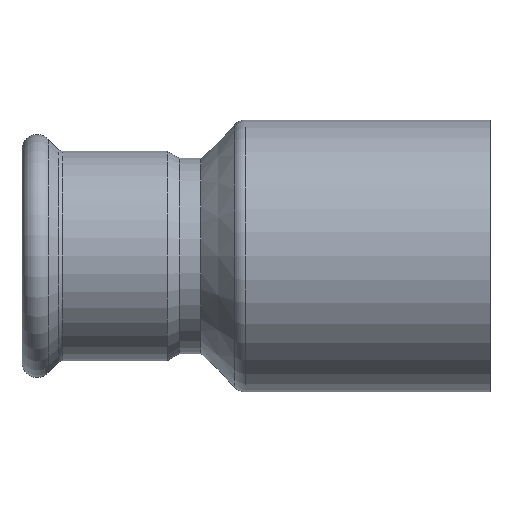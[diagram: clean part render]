
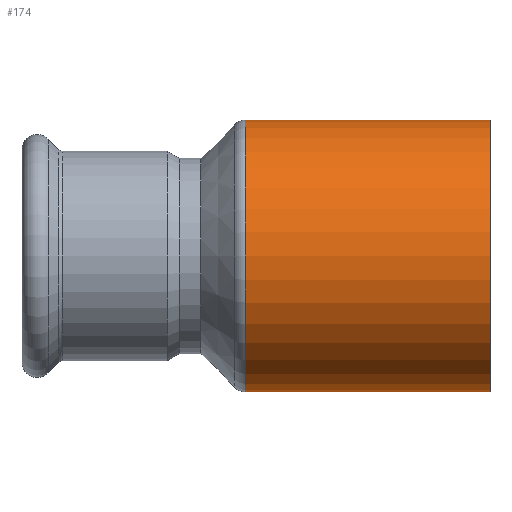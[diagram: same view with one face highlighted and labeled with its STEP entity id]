
A CAD part, front view. The second image highlights one B-rep face of the part: STEP entity #174.
In plain terms, the highlighted cylindrical face has radius 44.45 mm (diameter 88.9 mm), a full revolution.
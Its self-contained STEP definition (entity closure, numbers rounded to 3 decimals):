
#123=CARTESIAN_POINT('',(-79.979,44.45,0.));
#124=VERTEX_POINT('',#123);
#125=CARTESIAN_POINT('',(-79.979,0.0,0.0));
#126=DIRECTION('',(-1.0,0.0,0.0));
#127=DIRECTION('',(0.0,-1.0,0.0));
#128=AXIS2_PLACEMENT_3D('',#125,#126,#127);
#129=CIRCLE('',#128,44.45);
#130=EDGE_CURVE('',#124,#124,#129,.T.);
#155=CARTESIAN_POINT('',(-41.025,0.0,0.0));
#156=DIRECTION('',(1.0,0.0,0.0));
#157=DIRECTION('',(0.0,1.0,0.0));
#158=AXIS2_PLACEMENT_3D('',#155,#156,#157);
#159=CYLINDRICAL_SURFACE('',#158,44.45);
#160=CARTESIAN_POINT('',(0.,44.45,0.0));
#161=VERTEX_POINT('',#160);
#162=CARTESIAN_POINT('',(0.,0.0,0.0));
#163=DIRECTION('',(1.0,0.0,0.0));
#164=DIRECTION('',(0.0,1.0,0.0));
#165=AXIS2_PLACEMENT_3D('',#162,#163,#164);
#166=CIRCLE('',#165,44.45);
#167=EDGE_CURVE('',#161,#161,#166,.T.);
#168=ORIENTED_EDGE('',*,*,#167,.F.);
#169=EDGE_LOOP('',(#168));
#170=FACE_OUTER_BOUND('',#169,.T.);
#171=ORIENTED_EDGE('',*,*,#130,.F.);
#172=EDGE_LOOP('',(#171));
#173=FACE_BOUND('',#172,.T.);
#174=ADVANCED_FACE('',(#170,#173),#159,.T.);
